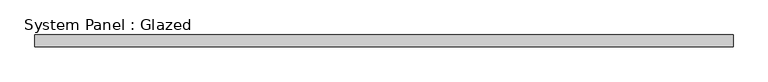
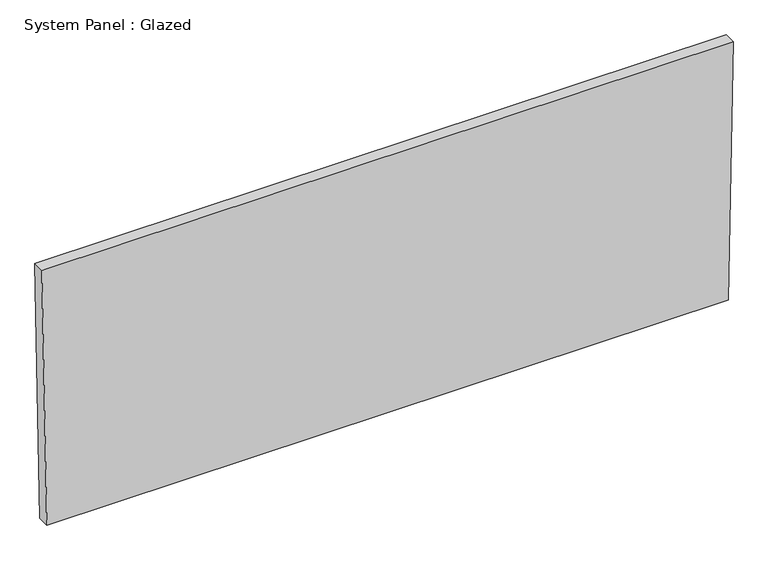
"""IFC4 building model written with IfcOpenShell, lengths in millimetres: plate geometry, System Panel : Glazed."""

from ifc_helpers import new_model, si_unit, frame, origin, place, context, project, spatial, polyline, outline, extrude, source, transform, mapped, element, save


def system_panel_glazed_02202366(model_context):
    return source(origin(), model_context, "Body", "SweptSolid", [
        extrude(outline(polyline([(0.0, -733.219562), (0.0, 733.219562), (584.0951149, 744.0560627), (584.0951149, -744.0560627), (0.0, -733.219562)])), frame((0.0, 19.05, 0.0), z_axis=(0.0, 1.0, 0.0), x_axis=(0.0, 0.0, 1.0)), (0.0, 0.0, 1.0), 25.4),
    ])


if __name__ == "__main__":
    model = new_model("IFC4")
    model_context = context("Model", 3, world=origin())
    ifc_project = project(units=[si_unit("LENGTHUNIT", "METRE", prefix="MILLI")], contexts=[model_context])
    site = spatial("IfcSite", under=ifc_project)
    building = spatial("IfcBuilding", under=site)
    placement = place(None, origin())
    system_panel_glazed_shape = system_panel_glazed_02202366(model_context)
    element("IfcPlate", 1, ObjectType="System Panel : Glazed", at=placement, inside=building, context=model_context, shape_type="MappedRepresentation", body=[
        mapped(system_panel_glazed_shape, transform((0.0, 0.0, 0.0), x_axis=(1.0, 0.0, 0.0), y_axis=(0.0, 1.0, 0.0), z_axis=(0.0, 0.0, 1.0))),
    ])
    save(model, "model.ifc")
